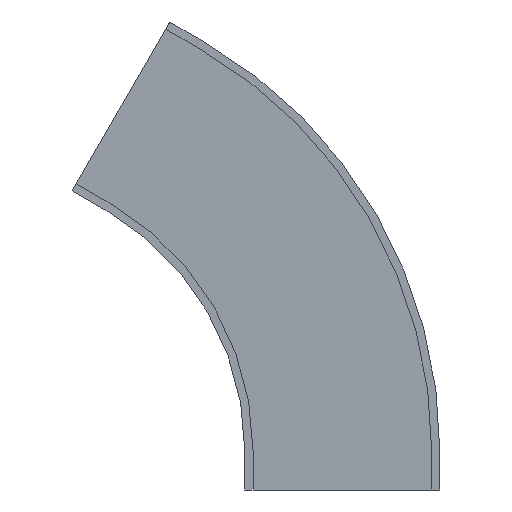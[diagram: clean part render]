
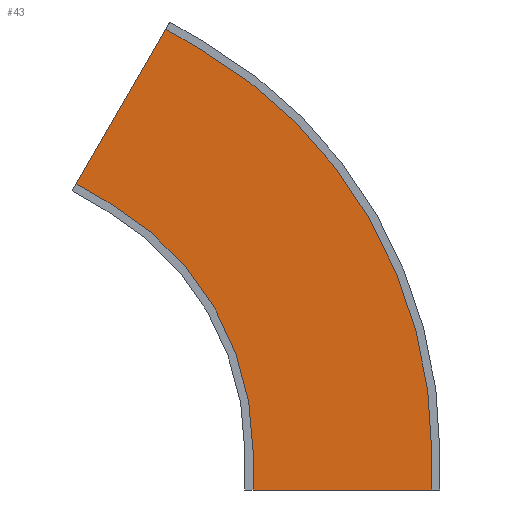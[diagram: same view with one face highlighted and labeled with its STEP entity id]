
A CAD part, front view. The second image highlights one B-rep face of the part: STEP entity #43.
In plain terms, the highlighted planar face has unit normal (0, -1, 0).
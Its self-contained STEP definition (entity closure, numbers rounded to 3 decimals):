
#43 = ADVANCED_FACE ( 'NONE', ( #437 ), #1331, .F. ) ;
#247 = VERTEX_POINT ( 'NONE', #704 ) ;
#260 = VERTEX_POINT ( 'NONE', #717 ) ;
#263 = VERTEX_POINT ( 'NONE', #720 ) ;
#264 = VERTEX_POINT ( 'NONE', #721 ) ;
#265 = VERTEX_POINT ( 'NONE', #722 ) ;
#266 = VERTEX_POINT ( 'NONE', #723 ) ;
#267 = VERTEX_POINT ( 'NONE', #724 ) ;
#270 = VERTEX_POINT ( 'NONE', #727 ) ;
#350 = EDGE_LOOP ( 'NONE', ( #1828, #1829, #1830, #1831, #1832, #1833, #1834, #1835 ) ) ;
#437 = FACE_OUTER_BOUND ( 'NONE', #350, .T. ) ;
#704 = CARTESIAN_POINT ( 'NONE',  ( 1188.6, -68., 0. ) ) ;
#717 = CARTESIAN_POINT ( 'NONE',  ( 365.7, -68., 633.411 ) ) ;
#720 = CARTESIAN_POINT ( 'NONE',  ( 731.4, -68., 0. ) ) ;
#721 = CARTESIAN_POINT ( 'NONE',  ( 731.4, -68., -100. ) ) ;
#722 = CARTESIAN_POINT ( 'NONE',  ( 507.697, -68., 1079.358 ) ) ;
#723 = CARTESIAN_POINT ( 'NONE',  ( 594.3, -68., 1029.358 ) ) ;
#724 = CARTESIAN_POINT ( 'NONE',  ( 279.097, -68., 683.411 ) ) ;
#727 = CARTESIAN_POINT ( 'NONE',  ( 1188.6, -68., -100. ) ) ;
#1006 = DIRECTION ( 'NONE',  ( 0., 0., 1. ) ) ;
#1008 = CARTESIAN_POINT ( 'NONE',  ( 1188.6, -68., -100. ) ) ;
#1009 = CARTESIAN_POINT ( 'NONE',  ( 279.097, -68., 683.411 ) ) ;
#1010 = CARTESIAN_POINT ( 'NONE',  ( 0., -68., -100. ) ) ;
#1015 = DIRECTION ( 'NONE',  ( -1., 0., 0. ) ) ;
#1016 = CARTESIAN_POINT ( 'NONE',  ( 731.4, -68., -100. ) ) ;
#1018 = DIRECTION ( 'NONE',  ( 0., 0., 1. ) ) ;
#1019 = DIRECTION ( 'NONE',  ( 0.866, 0., -0.5 ) ) ;
#1020 = CARTESIAN_POINT ( 'NONE',  ( -86.603, -68., 50. ) ) ;
#1021 = DIRECTION ( 'NONE',  ( 0.5, 0., 0.866 ) ) ;
#1022 = CARTESIAN_POINT ( 'NONE',  ( 507.697, -68., 1079.358 ) ) ;
#1023 = DIRECTION ( 'NONE',  ( 0.866, 0., -0.5 ) ) ;
#1025 = CARTESIAN_POINT ( 'NONE',  ( 0., -68., 0. ) ) ;
#1026 = DIRECTION ( 'NONE',  ( 0., 1., 0. ) ) ;
#1027 = DIRECTION ( 'NONE',  ( -1., 0., 0. ) ) ;
#1033 = CARTESIAN_POINT ( 'NONE',  ( 0., -68., 0. ) ) ;
#1034 = DIRECTION ( 'NONE',  ( 0., 1., 0. ) ) ;
#1035 = DIRECTION ( 'NONE',  ( -1., 0., 0. ) ) ;
#1165 = LINE ( 'NONE', #1010, #1171 ) ;
#1167 = LINE ( 'NONE', #1008, #1169 ) ;
#1168 = LINE ( 'NONE', #1009, #1175 ) ;
#1169 = VECTOR ( 'NONE', #1006, 1000. ) ;
#1170 = LINE ( 'NONE', #1016, #1173 ) ;
#1171 = VECTOR ( 'NONE', #1015, 1000. ) ;
#1173 = VECTOR ( 'NONE', #1018, 1000. ) ;
#1174 = LINE ( 'NONE', #1020, #1177 ) ;
#1175 = VECTOR ( 'NONE', #1019, 1000. ) ;
#1176 = LINE ( 'NONE', #1022, #1179 ) ;
#1177 = VECTOR ( 'NONE', #1021, 1000. ) ;
#1178 = CIRCLE ( 'NONE', #1735, 1188.6 ) ;
#1179 = VECTOR ( 'NONE', #1023, 1000. ) ;
#1181 = CIRCLE ( 'NONE', #1736, 731.4 ) ;
#1328 = DIRECTION ( 'NONE',  ( -1., 0., 0. ) ) ;
#1329 = DIRECTION ( 'NONE',  ( 0., 1., 0. ) ) ;
#1331 = PLANE ( 'NONE',  #1701 ) ;
#1333 = CARTESIAN_POINT ( 'NONE',  ( 365.7, -68., 633.411 ) ) ;
#1613 = EDGE_CURVE ( 'NONE', #270, #247, #1167, .T. ) ;
#1614 = EDGE_CURVE ( 'NONE', #270, #264, #1165, .T. ) ;
#1615 = EDGE_CURVE ( 'NONE', #264, #263, #1170, .T. ) ;
#1616 = EDGE_CURVE ( 'NONE', #267, #260, #1168, .T. ) ;
#1617 = EDGE_CURVE ( 'NONE', #267, #265, #1174, .T. ) ;
#1618 = EDGE_CURVE ( 'NONE', #265, #266, #1176, .T. ) ;
#1619 = EDGE_CURVE ( 'NONE', #266, #247, #1178, .T. ) ;
#1622 = EDGE_CURVE ( 'NONE', #260, #263, #1181, .T. ) ;
#1701 = AXIS2_PLACEMENT_3D ( 'NONE', #1333, #1329, #1328 ) ;
#1735 = AXIS2_PLACEMENT_3D ( 'NONE', #1025, #1026, #1027 ) ;
#1736 = AXIS2_PLACEMENT_3D ( 'NONE', #1033, #1034, #1035 ) ;
#1828 = ORIENTED_EDGE ( 'NONE', *, *, #1619, .F. ) ;
#1829 = ORIENTED_EDGE ( 'NONE', *, *, #1618, .F. ) ;
#1830 = ORIENTED_EDGE ( 'NONE', *, *, #1617, .F. ) ;
#1831 = ORIENTED_EDGE ( 'NONE', *, *, #1616, .T. ) ;
#1832 = ORIENTED_EDGE ( 'NONE', *, *, #1622, .T. ) ;
#1833 = ORIENTED_EDGE ( 'NONE', *, *, #1615, .F. ) ;
#1834 = ORIENTED_EDGE ( 'NONE', *, *, #1614, .F. ) ;
#1835 = ORIENTED_EDGE ( 'NONE', *, *, #1613, .T. ) ;
